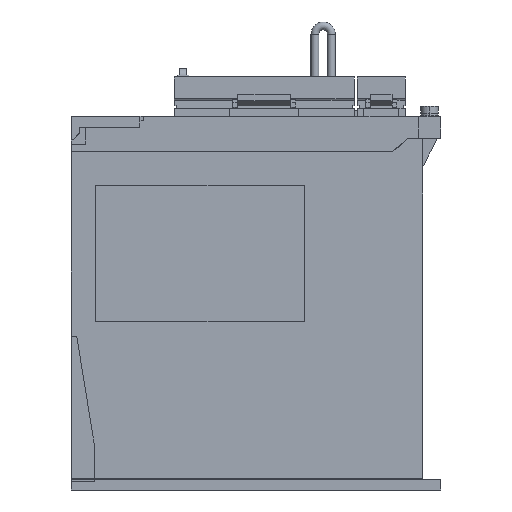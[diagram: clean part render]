
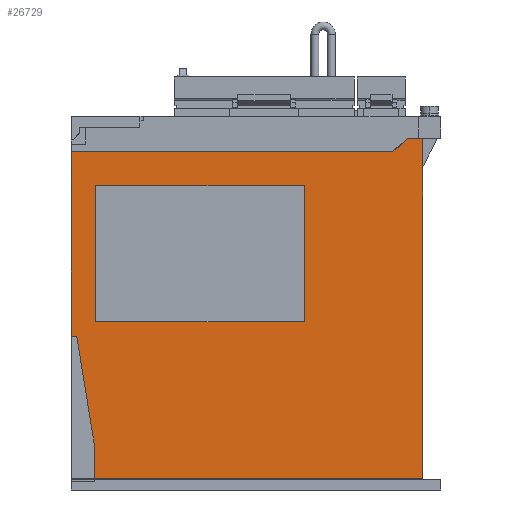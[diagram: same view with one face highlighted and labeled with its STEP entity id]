
A CAD part, left-side view. The second image highlights one B-rep face of the part: STEP entity #26729.
In plain terms, the highlighted planar face has unit normal (-1, 0, 0).
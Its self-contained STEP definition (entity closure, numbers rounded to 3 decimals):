
#24473 = VERTEX_POINT ( 'NONE', #46583 ) ;
#24475 = EDGE_CURVE ( 'NONE', #24473, #24476, #46582, .T. ) ;
#24476 = VERTEX_POINT ( 'NONE', #46578 ) ;
#24634 = EDGE_CURVE ( 'NONE', #24661, #24635, #46882, .T. ) ;
#24635 = VERTEX_POINT ( 'NONE', #46878 ) ;
#24661 = VERTEX_POINT ( 'NONE', #46898 ) ;
#24975 = VERTEX_POINT ( 'NONE', #47443 ) ;
#25005 = VERTEX_POINT ( 'NONE', #47521 ) ;
#25007 = EDGE_CURVE ( 'NONE', #24975, #25005, #47520, .T. ) ;
#26700 = ORIENTED_EDGE ( 'NONE', *, *, #26701, .T. ) ;
#26701 = EDGE_CURVE ( 'NONE', #25005, #24635, #50456, .T. ) ;
#26702 = ORIENTED_EDGE ( 'NONE', *, *, #24634, .F. ) ;
#26703 = ORIENTED_EDGE ( 'NONE', *, *, #26704, .T. ) ;
#26704 = EDGE_CURVE ( 'NONE', #24661, #26705, #50452, .T. ) ;
#26705 = VERTEX_POINT ( 'NONE', #50448 ) ;
#26706 = ORIENTED_EDGE ( 'NONE', *, *, #26707, .T. ) ;
#26707 = EDGE_CURVE ( 'NONE', #26705, #24476, #50447, .T. ) ;
#26713 = VERTEX_POINT ( 'NONE', #50433 ) ;
#26714 = ORIENTED_EDGE ( 'NONE', *, *, #26715, .F. ) ;
#26715 = EDGE_CURVE ( 'NONE', #26734, #26713, #50432, .T. ) ;
#26716 = EDGE_LOOP ( 'NONE', ( #26717, #26718, #26721, #26724, #26726, #26700, #26702, #26703, #26706 ) ) ;
#26717 = ORIENTED_EDGE ( 'NONE', *, *, #24475, .F. ) ;
#26718 = ORIENTED_EDGE ( 'NONE', *, *, #26719, .F. ) ;
#26719 = EDGE_CURVE ( 'NONE', #26720, #24473, #50428, .T. ) ;
#26720 = VERTEX_POINT ( 'NONE', #50487 ) ;
#26721 = ORIENTED_EDGE ( 'NONE', *, *, #26722, .F. ) ;
#26722 = EDGE_CURVE ( 'NONE', #26723, #26720, #50486, .T. ) ;
#26723 = VERTEX_POINT ( 'NONE', #50482 ) ;
#26724 = ORIENTED_EDGE ( 'NONE', *, *, #26725, .F. ) ;
#26725 = EDGE_CURVE ( 'NONE', #24975, #26723, #50481, .T. ) ;
#26726 = ORIENTED_EDGE ( 'NONE', *, *, #25007, .T. ) ;
#26729 = ADVANCED_FACE ( 'NONE', ( #50477, #50476 ), #50475, .F. ) ;
#26730 = EDGE_LOOP ( 'NONE', ( #26731, #26735, #26738, #26714 ) ) ;
#26731 = ORIENTED_EDGE ( 'NONE', *, *, #26732, .F. ) ;
#26732 = EDGE_CURVE ( 'NONE', #26733, #26734, #50470, .T. ) ;
#26733 = VERTEX_POINT ( 'NONE', #50466 ) ;
#26734 = VERTEX_POINT ( 'NONE', #50465 ) ;
#26735 = ORIENTED_EDGE ( 'NONE', *, *, #26736, .F. ) ;
#26736 = EDGE_CURVE ( 'NONE', #26737, #26733, #50464, .T. ) ;
#26737 = VERTEX_POINT ( 'NONE', #50460 ) ;
#26738 = ORIENTED_EDGE ( 'NONE', *, *, #26739, .F. ) ;
#26739 = EDGE_CURVE ( 'NONE', #26713, #26737, #50459, .T. ) ;
#46578 = CARTESIAN_POINT ( 'NONE',  ( -5., -155., 5.2 ) ) ;
#46579 = DIRECTION ( 'NONE',  ( 0., 0., -1. ) ) ;
#46580 = VECTOR ( 'NONE', #46579, 1000. ) ;
#46581 = CARTESIAN_POINT ( 'NONE',  ( -5., -155., 318.924 ) ) ;
#46582 = LINE ( 'NONE', #46581, #46580 ) ;
#46583 = CARTESIAN_POINT ( 'NONE',  ( -5., -155., 159.8 ) ) ;
#46878 = CARTESIAN_POINT ( 'NONE',  ( -5., 2.577, 70. ) ) ;
#46879 = DIRECTION ( 'NONE',  ( 0., 0.159, 0.987 ) ) ;
#46880 = VECTOR ( 'NONE', #46879, 1000. ) ;
#46881 = CARTESIAN_POINT ( 'NONE',  ( -5., -5.5, 20. ) ) ;
#46882 = LINE ( 'NONE', #46881, #46880 ) ;
#46898 = CARTESIAN_POINT ( 'NONE',  ( -5., -5.5, 20. ) ) ;
#47443 = CARTESIAN_POINT ( 'NONE',  ( -5., 5., 154. ) ) ;
#47517 = DIRECTION ( 'NONE',  ( 0., 0., -1. ) ) ;
#47518 = VECTOR ( 'NONE', #47517, 1000. ) ;
#47519 = CARTESIAN_POINT ( 'NONE',  ( -5., 5., 318.924 ) ) ;
#47520 = LINE ( 'NONE', #47519, #47518 ) ;
#47521 = CARTESIAN_POINT ( 'NONE',  ( -5., 5., 70. ) ) ;
#50425 = DIRECTION ( 'NONE',  ( 0., -1., 0. ) ) ;
#50426 = VECTOR ( 'NONE', #50425, 1000. ) ;
#50427 = CARTESIAN_POINT ( 'NONE',  ( -5., -153., 159.8 ) ) ;
#50428 = LINE ( 'NONE', #50427, #50426 ) ;
#50429 = DIRECTION ( 'NONE',  ( 0., 0., 1. ) ) ;
#50430 = VECTOR ( 'NONE', #50429, 1000. ) ;
#50431 = CARTESIAN_POINT ( 'NONE',  ( -5., -101., 76.5 ) ) ;
#50432 = LINE ( 'NONE', #50431, #50430 ) ;
#50433 = CARTESIAN_POINT ( 'NONE',  ( -5., -101., 138.5 ) ) ;
#50444 = DIRECTION ( 'NONE',  ( 0., -1., 0. ) ) ;
#50445 = VECTOR ( 'NONE', #50444, 1000. ) ;
#50446 = CARTESIAN_POINT ( 'NONE',  ( -5., -5.5, 5.2 ) ) ;
#50447 = LINE ( 'NONE', #50446, #50445 ) ;
#50448 = CARTESIAN_POINT ( 'NONE',  ( -5., -5.5, 5.2 ) ) ;
#50449 = DIRECTION ( 'NONE',  ( 0., 0., -1. ) ) ;
#50450 = VECTOR ( 'NONE', #50449, 1000. ) ;
#50451 = CARTESIAN_POINT ( 'NONE',  ( -5., -5.5, 20. ) ) ;
#50452 = LINE ( 'NONE', #50451, #50450 ) ;
#50453 = DIRECTION ( 'NONE',  ( 0., -1., 0. ) ) ;
#50454 = VECTOR ( 'NONE', #50453, 1000. ) ;
#50455 = CARTESIAN_POINT ( 'NONE',  ( -5., 5., 70. ) ) ;
#50456 = LINE ( 'NONE', #50455, #50454 ) ;
#50457 = VECTOR ( 'NONE', #50518, 1000. ) ;
#50458 = CARTESIAN_POINT ( 'NONE',  ( -5., -6., 138.5 ) ) ;
#50459 = LINE ( 'NONE', #50458, #50457 ) ;
#50460 = CARTESIAN_POINT ( 'NONE',  ( -5., -6., 138.5 ) ) ;
#50461 = DIRECTION ( 'NONE',  ( 0., 0., -1. ) ) ;
#50462 = VECTOR ( 'NONE', #50461, 1000. ) ;
#50463 = CARTESIAN_POINT ( 'NONE',  ( -5., -6., 76.5 ) ) ;
#50464 = LINE ( 'NONE', #50463, #50462 ) ;
#50465 = CARTESIAN_POINT ( 'NONE',  ( -5., -101., 76.5 ) ) ;
#50466 = CARTESIAN_POINT ( 'NONE',  ( -5., -6., 76.5 ) ) ;
#50467 = DIRECTION ( 'NONE',  ( 0., -1., 0. ) ) ;
#50468 = VECTOR ( 'NONE', #50467, 1000. ) ;
#50469 = CARTESIAN_POINT ( 'NONE',  ( -5., -6., 76.5 ) ) ;
#50470 = LINE ( 'NONE', #50469, #50468 ) ;
#50471 = DIRECTION ( 'NONE',  ( 0., 1., 0. ) ) ;
#50472 = DIRECTION ( 'NONE',  ( 1., 0., 0. ) ) ;
#50473 = CARTESIAN_POINT ( 'NONE',  ( -5., 5., 318.924 ) ) ;
#50474 = AXIS2_PLACEMENT_3D ( 'NONE', #50473, #50472, #50471 ) ;
#50475 = PLANE ( 'NONE',  #50474 ) ;
#50476 = FACE_OUTER_BOUND ( 'NONE', #26716, .T. ) ;
#50477 = FACE_BOUND ( 'NONE', #26730, .T. ) ;
#50478 = DIRECTION ( 'NONE',  ( 0., -1., 0. ) ) ;
#50479 = VECTOR ( 'NONE', #50478, 1000. ) ;
#50480 = CARTESIAN_POINT ( 'NONE',  ( -5., 13.365, 154. ) ) ;
#50481 = LINE ( 'NONE', #50480, #50479 ) ;
#50482 = CARTESIAN_POINT ( 'NONE',  ( -5., -141.328, 154. ) ) ;
#50483 = DIRECTION ( 'NONE',  ( 0., -0.755, 0.656 ) ) ;
#50484 = VECTOR ( 'NONE', #50483, 1000. ) ;
#50485 = CARTESIAN_POINT ( 'NONE',  ( -5., -141.328, 154. ) ) ;
#50486 = LINE ( 'NONE', #50485, #50484 ) ;
#50487 = CARTESIAN_POINT ( 'NONE',  ( -5., -148., 159.8 ) ) ;
#50518 = DIRECTION ( 'NONE',  ( 0., 1., 0. ) ) ;
